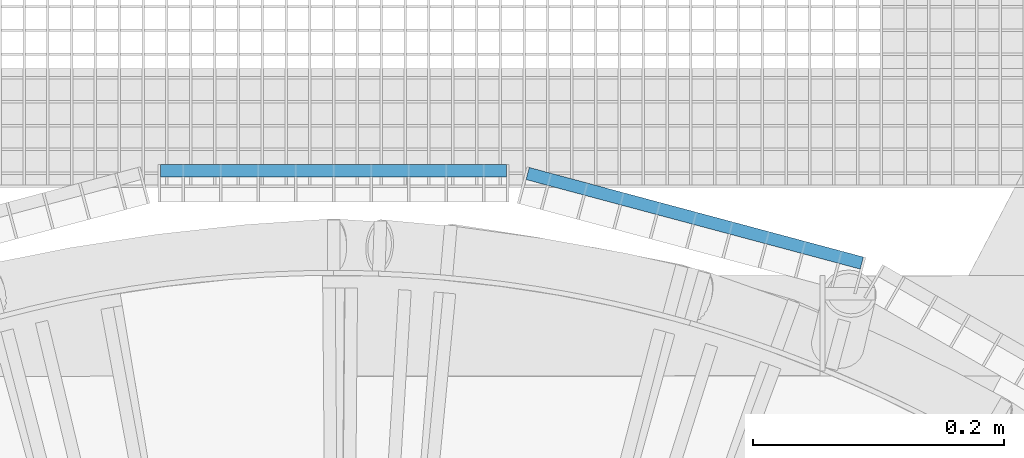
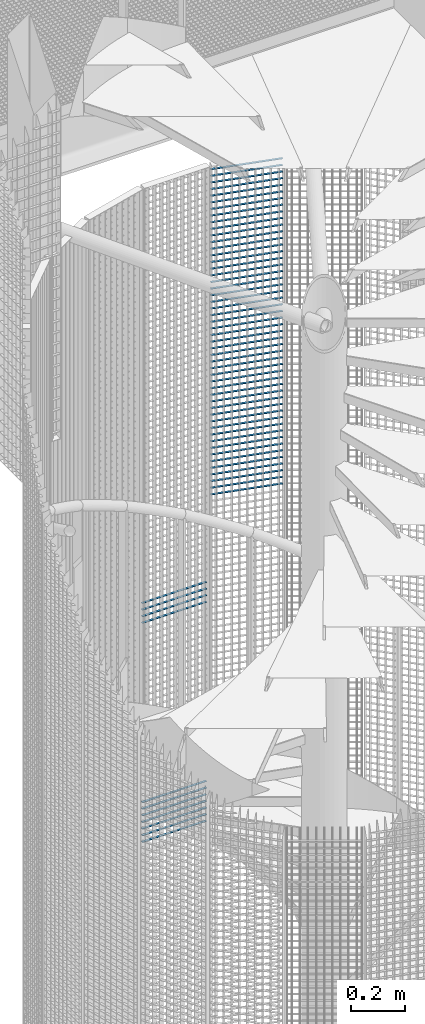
# One storey, part 306 of 1148: 61 beams, 2 elements without a shape of their own.
"""IFC2X3 building model written with IfcOpenShell, lengths in millimetres."""

from ifc_helpers import new_model, si_unit, frame, origin_with_axes, origin_2d_with_axis, place, context, subcontext, project, spatial, rectangle, extrude, material, type_object, element, aggregate, save


model = new_model("IFC2X3")

# Units and contexts
model_context = context("Model", 3, precision=1e-05, world=origin_with_axes())
body_context = subcontext(model_context, "Body", "Model", "MODEL_VIEW")
ifc_project = project(units=[si_unit("LENGTHUNIT", "METRE", prefix="MILLI"), si_unit("AREAUNIT", "SQUARE_METRE"), si_unit("VOLUMEUNIT", "CUBIC_METRE"), si_unit("MASSUNIT", "GRAM", prefix="KILO"), si_unit("TIMEUNIT", "SECOND"), si_unit("PLANEANGLEUNIT", "RADIAN"), si_unit("SOLIDANGLEUNIT", "STERADIAN"), si_unit("THERMODYNAMICTEMPERATUREUNIT", "DEGREE_CELSIUS"), si_unit("LUMINOUSINTENSITYUNIT", "LUMEN")], contexts=[model_context])

# Site, building, storey
site_placement = place(None, origin_with_axes())
site = spatial("IfcSite", under=ifc_project, at=site_placement, Name="Undefined", CompositionType="ELEMENT")
building_placement = place(site_placement, origin_with_axes())
building = spatial("IfcBuilding", under=site, at=building_placement, Name="Undefined", CompositionType="ELEMENT")
storey_placement = place(building_placement, origin_with_axes())
storey = spatial("IfcBuildingStorey", under=building, at=storey_placement, Name="Undefined", CompositionType="ELEMENT", Elevation=0.0)

# Assembly, beams
assembly_1_placement = place(storey_placement, origin_with_axes())
assembly_1 = element("IfcElementAssembly", 1, at=assembly_1_placement, inside=storey, Name="BORDURE", AssemblyPlace="NOTDEFINED", PredefinedType="NOTDEFINED")
ifc_material = material(Name="STEEL/S235JR")
beam_type = type_object("IfcBeamType", Name="PL2*10", PredefinedType="NOTDEFINED")
beam_1_placement = place(assembly_1_placement, frame((137.996003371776, 1113.47999999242, 4020.0), z_axis=(0.0, 1.0, 0.0), x_axis=(-1.0, 0.0, 0.0)))
beam_1 = element("IfcBeam", 2, at=beam_1_placement, type_object=beam_type, material=ifc_material, Name="ENTRETOISE", context=body_context, shape_type="SweptSolid", body=[
    extrude(rectangle(XDim=2.0, YDim=10.0, at=origin_2d_with_axis()), frame((275.999999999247, 9.09494701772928e-13, 1.53210777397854e-14), z_axis=(-1.0, 0.0, 0.0), x_axis=(0.0, -1.0, 0.0)), (0.0, 0.0, 1.0), 276.0),
])
beam_2_placement = place(assembly_1_placement, frame((137.996003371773, 1113.47999999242, 3210.0), z_axis=(0.0, 1.0, 0.0), x_axis=(-1.0, 0.0, 0.0)))
beam_2 = element("IfcBeam", 3, at=beam_2_placement, type_object=beam_type, material=ifc_material, Name="ENTRETOISE", context=body_context, shape_type="SweptSolid", body=[
    extrude(rectangle(XDim=2.0, YDim=10.0, at=origin_2d_with_axis()), frame((275.999999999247, 9.09494701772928e-13, 1.53210777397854e-14), z_axis=(-1.0, 0.0, 0.0), x_axis=(0.0, -1.0, 0.0)), (0.0, 0.0, 1.0), 276.0),
])
beam_3_placement = place(assembly_1_placement, frame((137.996003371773, 1113.47999999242, 3180.0), z_axis=(0.0, 1.0, 0.0), x_axis=(-1.0, 0.0, 0.0)))
beam_3 = element("IfcBeam", 4, at=beam_3_placement, type_object=beam_type, material=ifc_material, Name="ENTRETOISE", context=body_context, shape_type="SweptSolid", body=[
    extrude(rectangle(XDim=2.0, YDim=10.0, at=origin_2d_with_axis()), frame((275.999999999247, 9.09494701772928e-13, 1.53210777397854e-14), z_axis=(-1.0, 0.0, 0.0), x_axis=(0.0, -1.0, 0.0)), (0.0, 0.0, 1.0), 276.0),
])
beam_4_placement = place(assembly_1_placement, frame((137.996003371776, 1113.47999999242, 4050.0), z_axis=(0.0, 1.0, 0.0), x_axis=(-1.0, 0.0, 0.0)))
beam_4 = element("IfcBeam", 5, at=beam_4_placement, type_object=beam_type, material=ifc_material, Name="ENTRETOISE", context=body_context, shape_type="SweptSolid", body=[
    extrude(rectangle(XDim=2.0, YDim=10.0, at=origin_2d_with_axis()), frame((275.999999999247, 9.09494701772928e-13, 1.53210777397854e-14), z_axis=(-1.0, 0.0, 0.0), x_axis=(0.0, -1.0, 0.0)), (0.0, 0.0, 1.0), 276.0),
])
beam_5_placement = place(assembly_1_placement, frame((137.996003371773, 1113.47999999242, 3150.0), z_axis=(0.0, 1.0, 0.0), x_axis=(-1.0, 0.0, 0.0)))
beam_5 = element("IfcBeam", 6, at=beam_5_placement, type_object=beam_type, material=ifc_material, Name="ENTRETOISE", context=body_context, shape_type="SweptSolid", body=[
    extrude(rectangle(XDim=2.0, YDim=10.0, at=origin_2d_with_axis()), frame((275.999999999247, 9.09494701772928e-13, 1.53210777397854e-14), z_axis=(-1.0, 0.0, 0.0), x_axis=(0.0, -1.0, 0.0)), (0.0, 0.0, 1.0), 276.0),
])
beam_6_placement = place(assembly_1_placement, frame((137.996003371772, 1113.47999999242, 3120.0), z_axis=(0.0, 1.0, 0.0), x_axis=(-1.0, 0.0, 0.0)))
beam_6 = element("IfcBeam", 7, at=beam_6_placement, type_object=beam_type, material=ifc_material, Name="ENTRETOISE", context=body_context, shape_type="SweptSolid", body=[
    extrude(rectangle(XDim=2.0, YDim=10.0, at=origin_2d_with_axis()), frame((275.999999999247, 9.09494701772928e-13, 1.53210777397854e-14), z_axis=(-1.0, 0.0, 0.0), x_axis=(0.0, -1.0, 0.0)), (0.0, 0.0, 1.0), 276.0),
])
beam_7_placement = place(assembly_1_placement, frame((137.996003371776, 1113.47999999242, 4080.0), z_axis=(0.0, 1.0, 0.0), x_axis=(-1.0, 0.0, 0.0)))
beam_7 = element("IfcBeam", 8, at=beam_7_placement, type_object=beam_type, material=ifc_material, Name="ENTRETOISE", context=body_context, shape_type="SweptSolid", body=[
    extrude(rectangle(XDim=2.0, YDim=10.0, at=origin_2d_with_axis()), frame((275.999999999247, 9.09494701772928e-13, 1.53210777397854e-14), z_axis=(-1.0, 0.0, 0.0), x_axis=(0.0, -1.0, 0.0)), (0.0, 0.0, 1.0), 276.0),
])
beam_8_placement = place(assembly_1_placement, frame((137.996003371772, 1113.47999999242, 3090.0), z_axis=(0.0, 1.0, 0.0), x_axis=(-1.0, 0.0, 0.0)))
beam_8 = element("IfcBeam", 9, at=beam_8_placement, type_object=beam_type, material=ifc_material, Name="ENTRETOISE", context=body_context, shape_type="SweptSolid", body=[
    extrude(rectangle(XDim=2.0, YDim=10.0, at=origin_2d_with_axis()), frame((275.999999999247, 9.09494701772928e-13, 1.53210777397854e-14), z_axis=(-1.0, 0.0, 0.0), x_axis=(0.0, -1.0, 0.0)), (0.0, 0.0, 1.0), 276.0),
])
beam_9_placement = place(assembly_1_placement, frame((137.996003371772, 1113.47999999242, 3060.0), z_axis=(0.0, 1.0, 0.0), x_axis=(-1.0, 0.0, 0.0)))
beam_9 = element("IfcBeam", 10, at=beam_9_placement, type_object=beam_type, material=ifc_material, Name="ENTRETOISE", context=body_context, shape_type="SweptSolid", body=[
    extrude(rectangle(XDim=2.0, YDim=10.0, at=origin_2d_with_axis()), frame((275.999999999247, 9.09494701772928e-13, 1.53210777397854e-14), z_axis=(-1.0, 0.0, 0.0), x_axis=(0.0, -1.0, 0.0)), (0.0, 0.0, 1.0), 276.0),
])
beam_10_placement = place(assembly_1_placement, frame((137.996003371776, 1113.47999999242, 4110.0), z_axis=(0.0, 1.0, 0.0), x_axis=(-1.0, 0.0, 0.0)))
beam_10 = element("IfcBeam", 11, at=beam_10_placement, type_object=beam_type, material=ifc_material, Name="ENTRETOISE", context=body_context, shape_type="SweptSolid", body=[
    extrude(rectangle(XDim=2.0, YDim=10.0, at=origin_2d_with_axis()), frame((275.999999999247, 9.09494701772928e-13, 1.53210777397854e-14), z_axis=(-1.0, 0.0, 0.0), x_axis=(0.0, -1.0, 0.0)), (0.0, 0.0, 1.0), 276.0),
])
beam_11_placement = place(assembly_1_placement, frame((137.996003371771, 1113.47999999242, 3030.0), z_axis=(0.0, 1.0, 0.0), x_axis=(-1.0, 0.0, 0.0)))
beam_11 = element("IfcBeam", 12, at=beam_11_placement, type_object=beam_type, material=ifc_material, Name="ENTRETOISE", context=body_context, shape_type="SweptSolid", body=[
    extrude(rectangle(XDim=2.0, YDim=10.0, at=origin_2d_with_axis()), frame((275.999999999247, 9.09494701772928e-13, 1.53210777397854e-14), z_axis=(-1.0, 0.0, 0.0), x_axis=(0.0, -1.0, 0.0)), (0.0, 0.0, 1.0), 276.0),
])
aggregate(assembly_1, [beam_1, beam_2, beam_3, beam_4, beam_5, beam_6, beam_7, beam_8, beam_9, beam_10, beam_11])

assembly_2_placement = place(storey_placement, origin_with_axes())
assembly_2 = element("IfcElementAssembly", 13, at=assembly_2_placement, inside=storey, Name="BORDURE", AssemblyPlace="NOTDEFINED", PredefinedType="NOTDEFINED")
beam_12_placement = place(assembly_2_placement, frame((421.483733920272, 1039.82309522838, 5970.0), z_axis=(0.258819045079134, 0.965925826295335, 0.0), x_axis=(-0.965925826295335, 0.258819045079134, 0.0)))
beam_12 = element("IfcBeam", 14, at=beam_12_placement, type_object=beam_type, material=ifc_material, Name="ENTRETOISE", context=body_context, shape_type="SweptSolid", body=[
    extrude(rectangle(XDim=2.0, YDim=10.0, at=origin_2d_with_axis()), frame((275.999999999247, 9.09494701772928e-13, 1.53210777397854e-14), z_axis=(-1.0, 0.0, 0.0), x_axis=(0.0, -1.0, 0.0)), (0.0, 0.0, 1.0), 276.0),
])
beam_13_placement = place(assembly_2_placement, frame((421.483733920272, 1039.82309522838, 5940.0), z_axis=(0.258819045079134, 0.965925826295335, 0.0), x_axis=(-0.965925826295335, 0.258819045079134, 0.0)))
beam_13 = element("IfcBeam", 15, at=beam_13_placement, type_object=beam_type, material=ifc_material, Name="ENTRETOISE", context=body_context, shape_type="SweptSolid", body=[
    extrude(rectangle(XDim=2.0, YDim=10.0, at=origin_2d_with_axis()), frame((275.999999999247, 9.09494701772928e-13, 1.53210777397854e-14), z_axis=(-1.0, 0.0, 0.0), x_axis=(0.0, -1.0, 0.0)), (0.0, 0.0, 1.0), 276.0),
])
beam_14_placement = place(assembly_2_placement, frame((421.483733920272, 1039.82309522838, 5910.0), z_axis=(0.258819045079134, 0.965925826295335, 0.0), x_axis=(-0.965925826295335, 0.258819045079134, 0.0)))
beam_14 = element("IfcBeam", 16, at=beam_14_placement, type_object=beam_type, material=ifc_material, Name="ENTRETOISE", context=body_context, shape_type="SweptSolid", body=[
    extrude(rectangle(XDim=2.0, YDim=10.0, at=origin_2d_with_axis()), frame((275.999999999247, 9.09494701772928e-13, 1.53210777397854e-14), z_axis=(-1.0, 0.0, 0.0), x_axis=(0.0, -1.0, 0.0)), (0.0, 0.0, 1.0), 276.0),
])
beam_15_placement = place(assembly_2_placement, frame((421.483733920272, 1039.82309522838, 5880.0), z_axis=(0.258819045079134, 0.965925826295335, 0.0), x_axis=(-0.965925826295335, 0.258819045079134, 0.0)))
beam_15 = element("IfcBeam", 17, at=beam_15_placement, type_object=beam_type, material=ifc_material, Name="ENTRETOISE", context=body_context, shape_type="SweptSolid", body=[
    extrude(rectangle(XDim=2.0, YDim=10.0, at=origin_2d_with_axis()), frame((275.999999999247, 9.09494701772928e-13, 1.53210777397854e-14), z_axis=(-1.0, 0.0, 0.0), x_axis=(0.0, -1.0, 0.0)), (0.0, 0.0, 1.0), 276.0),
])
beam_16_placement = place(assembly_2_placement, frame((421.483733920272, 1039.82309522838, 5850.0), z_axis=(0.258819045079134, 0.965925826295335, 0.0), x_axis=(-0.965925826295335, 0.258819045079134, 0.0)))
beam_16 = element("IfcBeam", 18, at=beam_16_placement, type_object=beam_type, material=ifc_material, Name="ENTRETOISE", context=body_context, shape_type="SweptSolid", body=[
    extrude(rectangle(XDim=2.0, YDim=10.0, at=origin_2d_with_axis()), frame((275.999999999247, 9.09494701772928e-13, 1.53210777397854e-14), z_axis=(-1.0, 0.0, 0.0), x_axis=(0.0, -1.0, 0.0)), (0.0, 0.0, 1.0), 276.0),
])
beam_17_placement = place(assembly_2_placement, frame((421.483733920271, 1039.82309522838, 5820.0), z_axis=(0.258819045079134, 0.965925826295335, 0.0), x_axis=(-0.965925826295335, 0.258819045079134, 0.0)))
beam_17 = element("IfcBeam", 19, at=beam_17_placement, type_object=beam_type, material=ifc_material, Name="ENTRETOISE", context=body_context, shape_type="SweptSolid", body=[
    extrude(rectangle(XDim=2.0, YDim=10.0, at=origin_2d_with_axis()), frame((275.999999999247, 9.09494701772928e-13, 1.53210777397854e-14), z_axis=(-1.0, 0.0, 0.0), x_axis=(0.0, -1.0, 0.0)), (0.0, 0.0, 1.0), 276.0),
])
beam_18_placement = place(assembly_2_placement, frame((421.483733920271, 1039.82309522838, 5790.0), z_axis=(0.258819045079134, 0.965925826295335, 0.0), x_axis=(-0.965925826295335, 0.258819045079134, 0.0)))
beam_18 = element("IfcBeam", 20, at=beam_18_placement, type_object=beam_type, material=ifc_material, Name="ENTRETOISE", context=body_context, shape_type="SweptSolid", body=[
    extrude(rectangle(XDim=2.0, YDim=10.0, at=origin_2d_with_axis()), frame((275.999999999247, 9.09494701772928e-13, 1.53210777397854e-14), z_axis=(-1.0, 0.0, 0.0), x_axis=(0.0, -1.0, 0.0)), (0.0, 0.0, 1.0), 276.0),
])
beam_19_placement = place(assembly_2_placement, frame((421.483733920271, 1039.82309522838, 5760.0), z_axis=(0.258819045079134, 0.965925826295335, 0.0), x_axis=(-0.965925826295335, 0.258819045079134, 0.0)))
beam_19 = element("IfcBeam", 21, at=beam_19_placement, type_object=beam_type, material=ifc_material, Name="ENTRETOISE", context=body_context, shape_type="SweptSolid", body=[
    extrude(rectangle(XDim=2.0, YDim=10.0, at=origin_2d_with_axis()), frame((275.999999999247, 9.09494701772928e-13, 1.53210777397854e-14), z_axis=(-1.0, 0.0, 0.0), x_axis=(0.0, -1.0, 0.0)), (0.0, 0.0, 1.0), 276.0),
])
beam_20_placement = place(assembly_2_placement, frame((421.483733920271, 1039.82309522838, 5730.0), z_axis=(0.258819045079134, 0.965925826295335, 0.0), x_axis=(-0.965925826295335, 0.258819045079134, 0.0)))
beam_20 = element("IfcBeam", 22, at=beam_20_placement, type_object=beam_type, material=ifc_material, Name="ENTRETOISE", context=body_context, shape_type="SweptSolid", body=[
    extrude(rectangle(XDim=2.0, YDim=10.0, at=origin_2d_with_axis()), frame((275.999999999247, 9.09494701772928e-13, 1.53210777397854e-14), z_axis=(-1.0, 0.0, 0.0), x_axis=(0.0, -1.0, 0.0)), (0.0, 0.0, 1.0), 276.0),
])
beam_21_placement = place(assembly_2_placement, frame((421.483733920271, 1039.82309522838, 5700.0), z_axis=(0.258819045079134, 0.965925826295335, 0.0), x_axis=(-0.965925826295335, 0.258819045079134, 0.0)))
beam_21 = element("IfcBeam", 23, at=beam_21_placement, type_object=beam_type, material=ifc_material, Name="ENTRETOISE", context=body_context, shape_type="SweptSolid", body=[
    extrude(rectangle(XDim=2.0, YDim=10.0, at=origin_2d_with_axis()), frame((275.999999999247, 9.09494701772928e-13, 1.53210777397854e-14), z_axis=(-1.0, 0.0, 0.0), x_axis=(0.0, -1.0, 0.0)), (0.0, 0.0, 1.0), 276.0),
])
beam_22_placement = place(assembly_2_placement, frame((421.483733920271, 1039.82309522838, 5670.0), z_axis=(0.258819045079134, 0.965925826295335, 0.0), x_axis=(-0.965925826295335, 0.258819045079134, 0.0)))
beam_22 = element("IfcBeam", 24, at=beam_22_placement, type_object=beam_type, material=ifc_material, Name="ENTRETOISE", context=body_context, shape_type="SweptSolid", body=[
    extrude(rectangle(XDim=2.0, YDim=10.0, at=origin_2d_with_axis()), frame((275.999999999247, 9.09494701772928e-13, 1.53210777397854e-14), z_axis=(-1.0, 0.0, 0.0), x_axis=(0.0, -1.0, 0.0)), (0.0, 0.0, 1.0), 276.0),
])
beam_23_placement = place(assembly_2_placement, frame((421.483733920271, 1039.82309522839, 5640.0), z_axis=(0.258819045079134, 0.965925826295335, 0.0), x_axis=(-0.965925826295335, 0.258819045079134, 0.0)))
beam_23 = element("IfcBeam", 25, at=beam_23_placement, type_object=beam_type, material=ifc_material, Name="ENTRETOISE", context=body_context, shape_type="SweptSolid", body=[
    extrude(rectangle(XDim=2.0, YDim=10.0, at=origin_2d_with_axis()), frame((275.999999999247, 9.09494701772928e-13, 1.53210777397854e-14), z_axis=(-1.0, 0.0, 0.0), x_axis=(0.0, -1.0, 0.0)), (0.0, 0.0, 1.0), 276.0),
])
beam_24_placement = place(assembly_2_placement, frame((421.483733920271, 1039.82309522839, 5610.0), z_axis=(0.258819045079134, 0.965925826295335, 0.0), x_axis=(-0.965925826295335, 0.258819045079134, 0.0)))
beam_24 = element("IfcBeam", 26, at=beam_24_placement, type_object=beam_type, material=ifc_material, Name="ENTRETOISE", context=body_context, shape_type="SweptSolid", body=[
    extrude(rectangle(XDim=2.0, YDim=10.0, at=origin_2d_with_axis()), frame((275.999999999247, 9.09494701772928e-13, 1.53210777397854e-14), z_axis=(-1.0, 0.0, 0.0), x_axis=(0.0, -1.0, 0.0)), (0.0, 0.0, 1.0), 276.0),
])
beam_25_placement = place(assembly_2_placement, frame((421.483733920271, 1039.82309522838, 5580.0), z_axis=(0.258819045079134, 0.965925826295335, 0.0), x_axis=(-0.965925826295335, 0.258819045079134, 0.0)))
beam_25 = element("IfcBeam", 27, at=beam_25_placement, type_object=beam_type, material=ifc_material, Name="ENTRETOISE", context=body_context, shape_type="SweptSolid", body=[
    extrude(rectangle(XDim=2.0, YDim=10.0, at=origin_2d_with_axis()), frame((275.999999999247, 9.09494701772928e-13, 1.53210777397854e-14), z_axis=(-1.0, 0.0, 0.0), x_axis=(0.0, -1.0, 0.0)), (0.0, 0.0, 1.0), 276.0),
])
beam_26_placement = place(assembly_2_placement, frame((421.48373392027, 1039.82309522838, 5550.0), z_axis=(0.258819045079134, 0.965925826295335, 0.0), x_axis=(-0.965925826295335, 0.258819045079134, 0.0)))
beam_26 = element("IfcBeam", 28, at=beam_26_placement, type_object=beam_type, material=ifc_material, Name="ENTRETOISE", context=body_context, shape_type="SweptSolid", body=[
    extrude(rectangle(XDim=2.0, YDim=10.0, at=origin_2d_with_axis()), frame((275.999999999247, 9.09494701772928e-13, 1.53210777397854e-14), z_axis=(-1.0, 0.0, 0.0), x_axis=(0.0, -1.0, 0.0)), (0.0, 0.0, 1.0), 276.0),
])
beam_27_placement = place(assembly_2_placement, frame((421.48373392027, 1039.82309522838, 5520.0), z_axis=(0.258819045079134, 0.965925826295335, 0.0), x_axis=(-0.965925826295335, 0.258819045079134, 0.0)))
beam_27 = element("IfcBeam", 29, at=beam_27_placement, type_object=beam_type, material=ifc_material, Name="ENTRETOISE", context=body_context, shape_type="SweptSolid", body=[
    extrude(rectangle(XDim=2.0, YDim=10.0, at=origin_2d_with_axis()), frame((275.999999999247, 9.09494701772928e-13, 1.53210777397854e-14), z_axis=(-1.0, 0.0, 0.0), x_axis=(0.0, -1.0, 0.0)), (0.0, 0.0, 1.0), 276.0),
])
beam_28_placement = place(assembly_2_placement, frame((421.48373392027, 1039.82309522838, 5490.0), z_axis=(0.258819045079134, 0.965925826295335, 0.0), x_axis=(-0.965925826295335, 0.258819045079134, 0.0)))
beam_28 = element("IfcBeam", 30, at=beam_28_placement, type_object=beam_type, material=ifc_material, Name="ENTRETOISE", context=body_context, shape_type="SweptSolid", body=[
    extrude(rectangle(XDim=2.0, YDim=10.0, at=origin_2d_with_axis()), frame((275.999999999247, 9.09494701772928e-13, 1.53210777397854e-14), z_axis=(-1.0, 0.0, 0.0), x_axis=(0.0, -1.0, 0.0)), (0.0, 0.0, 1.0), 276.0),
])
beam_29_placement = place(assembly_2_placement, frame((421.48373392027, 1039.82309522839, 5460.0), z_axis=(0.258819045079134, 0.965925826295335, 0.0), x_axis=(-0.965925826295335, 0.258819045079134, 0.0)))
beam_29 = element("IfcBeam", 31, at=beam_29_placement, type_object=beam_type, material=ifc_material, Name="ENTRETOISE", context=body_context, shape_type="SweptSolid", body=[
    extrude(rectangle(XDim=2.0, YDim=10.0, at=origin_2d_with_axis()), frame((275.999999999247, 9.09494701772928e-13, 1.53210777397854e-14), z_axis=(-1.0, 0.0, 0.0), x_axis=(0.0, -1.0, 0.0)), (0.0, 0.0, 1.0), 276.0),
])
beam_30_placement = place(assembly_2_placement, frame((421.48373392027, 1039.82309522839, 5430.0), z_axis=(0.258819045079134, 0.965925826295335, 0.0), x_axis=(-0.965925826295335, 0.258819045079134, 0.0)))
beam_30 = element("IfcBeam", 32, at=beam_30_placement, type_object=beam_type, material=ifc_material, Name="ENTRETOISE", context=body_context, shape_type="SweptSolid", body=[
    extrude(rectangle(XDim=2.0, YDim=10.0, at=origin_2d_with_axis()), frame((275.999999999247, 9.09494701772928e-13, 1.53210777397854e-14), z_axis=(-1.0, 0.0, 0.0), x_axis=(0.0, -1.0, 0.0)), (0.0, 0.0, 1.0), 276.0),
])
beam_31_placement = place(assembly_2_placement, frame((421.48373392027, 1039.82309522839, 5400.0), z_axis=(0.258819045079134, 0.965925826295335, 0.0), x_axis=(-0.965925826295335, 0.258819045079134, 0.0)))
beam_31 = element("IfcBeam", 33, at=beam_31_placement, type_object=beam_type, material=ifc_material, Name="ENTRETOISE", context=body_context, shape_type="SweptSolid", body=[
    extrude(rectangle(XDim=2.0, YDim=10.0, at=origin_2d_with_axis()), frame((275.999999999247, 9.09494701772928e-13, 1.53210777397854e-14), z_axis=(-1.0, 0.0, 0.0), x_axis=(0.0, -1.0, 0.0)), (0.0, 0.0, 1.0), 276.0),
])
beam_32_placement = place(assembly_2_placement, frame((421.48373392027, 1039.82309522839, 5370.0), z_axis=(0.258819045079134, 0.965925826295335, 0.0), x_axis=(-0.965925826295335, 0.258819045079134, 0.0)))
beam_32 = element("IfcBeam", 34, at=beam_32_placement, type_object=beam_type, material=ifc_material, Name="ENTRETOISE", context=body_context, shape_type="SweptSolid", body=[
    extrude(rectangle(XDim=2.0, YDim=10.0, at=origin_2d_with_axis()), frame((275.999999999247, 9.09494701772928e-13, 1.53210777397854e-14), z_axis=(-1.0, 0.0, 0.0), x_axis=(0.0, -1.0, 0.0)), (0.0, 0.0, 1.0), 276.0),
])
beam_33_placement = place(assembly_2_placement, frame((421.48373392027, 1039.82309522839, 5340.0), z_axis=(0.258819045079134, 0.965925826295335, 0.0), x_axis=(-0.965925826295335, 0.258819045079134, 0.0)))
beam_33 = element("IfcBeam", 35, at=beam_33_placement, type_object=beam_type, material=ifc_material, Name="ENTRETOISE", context=body_context, shape_type="SweptSolid", body=[
    extrude(rectangle(XDim=2.0, YDim=10.0, at=origin_2d_with_axis()), frame((275.999999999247, 9.09494701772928e-13, 1.53210777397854e-14), z_axis=(-1.0, 0.0, 0.0), x_axis=(0.0, -1.0, 0.0)), (0.0, 0.0, 1.0), 276.0),
])
beam_34_placement = place(assembly_2_placement, frame((421.48373392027, 1039.82309522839, 5310.0), z_axis=(0.258819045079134, 0.965925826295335, 0.0), x_axis=(-0.965925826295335, 0.258819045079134, 0.0)))
beam_34 = element("IfcBeam", 36, at=beam_34_placement, type_object=beam_type, material=ifc_material, Name="ENTRETOISE", context=body_context, shape_type="SweptSolid", body=[
    extrude(rectangle(XDim=2.0, YDim=10.0, at=origin_2d_with_axis()), frame((275.999999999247, 9.09494701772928e-13, 1.53210777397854e-14), z_axis=(-1.0, 0.0, 0.0), x_axis=(0.0, -1.0, 0.0)), (0.0, 0.0, 1.0), 276.0),
])
beam_35_placement = place(assembly_2_placement, frame((421.48373392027, 1039.82309522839, 5280.0), z_axis=(0.258819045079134, 0.965925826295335, 0.0), x_axis=(-0.965925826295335, 0.258819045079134, 0.0)))
beam_35 = element("IfcBeam", 37, at=beam_35_placement, type_object=beam_type, material=ifc_material, Name="ENTRETOISE", context=body_context, shape_type="SweptSolid", body=[
    extrude(rectangle(XDim=2.0, YDim=10.0, at=origin_2d_with_axis()), frame((275.999999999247, 9.09494701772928e-13, 1.53210777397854e-14), z_axis=(-1.0, 0.0, 0.0), x_axis=(0.0, -1.0, 0.0)), (0.0, 0.0, 1.0), 276.0),
])
beam_36_placement = place(assembly_2_placement, frame((421.48373392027, 1039.82309522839, 5250.0), z_axis=(0.258819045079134, 0.965925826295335, 0.0), x_axis=(-0.965925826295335, 0.258819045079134, 0.0)))
beam_36 = element("IfcBeam", 38, at=beam_36_placement, type_object=beam_type, material=ifc_material, Name="ENTRETOISE", context=body_context, shape_type="SweptSolid", body=[
    extrude(rectangle(XDim=2.0, YDim=10.0, at=origin_2d_with_axis()), frame((275.999999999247, 9.09494701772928e-13, 1.53210777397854e-14), z_axis=(-1.0, 0.0, 0.0), x_axis=(0.0, -1.0, 0.0)), (0.0, 0.0, 1.0), 276.0),
])
beam_37_placement = place(assembly_2_placement, frame((421.48373392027, 1039.82309522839, 5220.0), z_axis=(0.258819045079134, 0.965925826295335, 0.0), x_axis=(-0.965925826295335, 0.258819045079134, 0.0)))
beam_37 = element("IfcBeam", 39, at=beam_37_placement, type_object=beam_type, material=ifc_material, Name="ENTRETOISE", context=body_context, shape_type="SweptSolid", body=[
    extrude(rectangle(XDim=2.0, YDim=10.0, at=origin_2d_with_axis()), frame((275.999999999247, 9.09494701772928e-13, 1.53210777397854e-14), z_axis=(-1.0, 0.0, 0.0), x_axis=(0.0, -1.0, 0.0)), (0.0, 0.0, 1.0), 276.0),
])
beam_38_placement = place(assembly_2_placement, frame((421.483733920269, 1039.82309522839, 5190.0), z_axis=(0.258819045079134, 0.965925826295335, 0.0), x_axis=(-0.965925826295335, 0.258819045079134, 0.0)))
beam_38 = element("IfcBeam", 40, at=beam_38_placement, type_object=beam_type, material=ifc_material, Name="ENTRETOISE", context=body_context, shape_type="SweptSolid", body=[
    extrude(rectangle(XDim=2.0, YDim=10.0, at=origin_2d_with_axis()), frame((275.999999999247, 9.09494701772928e-13, 1.53210777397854e-14), z_axis=(-1.0, 0.0, 0.0), x_axis=(0.0, -1.0, 0.0)), (0.0, 0.0, 1.0), 276.0),
])
beam_39_placement = place(assembly_2_placement, frame((421.483733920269, 1039.82309522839, 5160.0), z_axis=(0.258819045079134, 0.965925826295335, 0.0), x_axis=(-0.965925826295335, 0.258819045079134, 0.0)))
beam_39 = element("IfcBeam", 41, at=beam_39_placement, type_object=beam_type, material=ifc_material, Name="ENTRETOISE", context=body_context, shape_type="SweptSolid", body=[
    extrude(rectangle(XDim=2.0, YDim=10.0, at=origin_2d_with_axis()), frame((275.999999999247, 9.09494701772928e-13, 1.53210777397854e-14), z_axis=(-1.0, 0.0, 0.0), x_axis=(0.0, -1.0, 0.0)), (0.0, 0.0, 1.0), 276.0),
])
beam_40_placement = place(assembly_2_placement, frame((421.483733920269, 1039.82309522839, 5130.0), z_axis=(0.258819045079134, 0.965925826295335, 0.0), x_axis=(-0.965925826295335, 0.258819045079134, 0.0)))
beam_40 = element("IfcBeam", 42, at=beam_40_placement, type_object=beam_type, material=ifc_material, Name="ENTRETOISE", context=body_context, shape_type="SweptSolid", body=[
    extrude(rectangle(XDim=2.0, YDim=10.0, at=origin_2d_with_axis()), frame((275.999999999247, 9.09494701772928e-13, 1.53210777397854e-14), z_axis=(-1.0, 0.0, 0.0), x_axis=(0.0, -1.0, 0.0)), (0.0, 0.0, 1.0), 276.0),
])
beam_41_placement = place(assembly_2_placement, frame((421.483733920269, 1039.82309522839, 5100.0), z_axis=(0.258819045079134, 0.965925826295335, 0.0), x_axis=(-0.965925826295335, 0.258819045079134, 0.0)))
beam_41 = element("IfcBeam", 43, at=beam_41_placement, type_object=beam_type, material=ifc_material, Name="ENTRETOISE", context=body_context, shape_type="SweptSolid", body=[
    extrude(rectangle(XDim=2.0, YDim=10.0, at=origin_2d_with_axis()), frame((275.999999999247, 9.09494701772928e-13, 1.53210777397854e-14), z_axis=(-1.0, 0.0, 0.0), x_axis=(0.0, -1.0, 0.0)), (0.0, 0.0, 1.0), 276.0),
])
beam_42_placement = place(assembly_2_placement, frame((421.483733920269, 1039.82309522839, 5070.0), z_axis=(0.258819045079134, 0.965925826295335, 0.0), x_axis=(-0.965925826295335, 0.258819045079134, 0.0)))
beam_42 = element("IfcBeam", 44, at=beam_42_placement, type_object=beam_type, material=ifc_material, Name="ENTRETOISE", context=body_context, shape_type="SweptSolid", body=[
    extrude(rectangle(XDim=2.0, YDim=10.0, at=origin_2d_with_axis()), frame((275.999999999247, 9.09494701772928e-13, 1.53210777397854e-14), z_axis=(-1.0, 0.0, 0.0), x_axis=(0.0, -1.0, 0.0)), (0.0, 0.0, 1.0), 276.0),
])
beam_43_placement = place(assembly_2_placement, frame((421.483733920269, 1039.82309522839, 5040.0), z_axis=(0.258819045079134, 0.965925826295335, 0.0), x_axis=(-0.965925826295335, 0.258819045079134, 0.0)))
beam_43 = element("IfcBeam", 45, at=beam_43_placement, type_object=beam_type, material=ifc_material, Name="ENTRETOISE", context=body_context, shape_type="SweptSolid", body=[
    extrude(rectangle(XDim=2.0, YDim=10.0, at=origin_2d_with_axis()), frame((275.999999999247, 9.09494701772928e-13, 1.53210777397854e-14), z_axis=(-1.0, 0.0, 0.0), x_axis=(0.0, -1.0, 0.0)), (0.0, 0.0, 1.0), 276.0),
])
beam_44_placement = place(assembly_2_placement, frame((421.483733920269, 1039.82309522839, 5010.0), z_axis=(0.258819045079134, 0.965925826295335, 0.0), x_axis=(-0.965925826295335, 0.258819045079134, 0.0)))
beam_44 = element("IfcBeam", 46, at=beam_44_placement, type_object=beam_type, material=ifc_material, Name="ENTRETOISE", context=body_context, shape_type="SweptSolid", body=[
    extrude(rectangle(XDim=2.0, YDim=10.0, at=origin_2d_with_axis()), frame((275.999999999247, 9.09494701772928e-13, 1.53210777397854e-14), z_axis=(-1.0, 0.0, 0.0), x_axis=(0.0, -1.0, 0.0)), (0.0, 0.0, 1.0), 276.0),
])
beam_45_placement = place(assembly_2_placement, frame((421.483733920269, 1039.82309522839, 4980.0), z_axis=(0.258819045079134, 0.965925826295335, 0.0), x_axis=(-0.965925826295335, 0.258819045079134, 0.0)))
beam_45 = element("IfcBeam", 47, at=beam_45_placement, type_object=beam_type, material=ifc_material, Name="ENTRETOISE", context=body_context, shape_type="SweptSolid", body=[
    extrude(rectangle(XDim=2.0, YDim=10.0, at=origin_2d_with_axis()), frame((275.999999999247, 9.09494701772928e-13, 1.53210777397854e-14), z_axis=(-1.0, 0.0, 0.0), x_axis=(0.0, -1.0, 0.0)), (0.0, 0.0, 1.0), 276.0),
])
beam_46_placement = place(assembly_2_placement, frame((421.483733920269, 1039.82309522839, 4950.0), z_axis=(0.258819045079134, 0.965925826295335, 0.0), x_axis=(-0.965925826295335, 0.258819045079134, 0.0)))
beam_46 = element("IfcBeam", 48, at=beam_46_placement, type_object=beam_type, material=ifc_material, Name="ENTRETOISE", context=body_context, shape_type="SweptSolid", body=[
    extrude(rectangle(XDim=2.0, YDim=10.0, at=origin_2d_with_axis()), frame((275.999999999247, 9.09494701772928e-13, 1.53210777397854e-14), z_axis=(-1.0, 0.0, 0.0), x_axis=(0.0, -1.0, 0.0)), (0.0, 0.0, 1.0), 276.0),
])
beam_47_placement = place(assembly_2_placement, frame((421.483733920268, 1039.82309522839, 4920.0), z_axis=(0.258819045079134, 0.965925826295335, 0.0), x_axis=(-0.965925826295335, 0.258819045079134, 0.0)))
beam_47 = element("IfcBeam", 49, at=beam_47_placement, type_object=beam_type, material=ifc_material, Name="ENTRETOISE", context=body_context, shape_type="SweptSolid", body=[
    extrude(rectangle(XDim=2.0, YDim=10.0, at=origin_2d_with_axis()), frame((275.999999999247, 9.09494701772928e-13, 1.53210777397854e-14), z_axis=(-1.0, 0.0, 0.0), x_axis=(0.0, -1.0, 0.0)), (0.0, 0.0, 1.0), 276.0),
])
beam_48_placement = place(assembly_2_placement, frame((421.483733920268, 1039.82309522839, 4890.0), z_axis=(0.258819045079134, 0.965925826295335, 0.0), x_axis=(-0.965925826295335, 0.258819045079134, 0.0)))
beam_48 = element("IfcBeam", 50, at=beam_48_placement, type_object=beam_type, material=ifc_material, Name="ENTRETOISE", context=body_context, shape_type="SweptSolid", body=[
    extrude(rectangle(XDim=2.0, YDim=10.0, at=origin_2d_with_axis()), frame((275.999999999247, 9.09494701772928e-13, 1.53210777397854e-14), z_axis=(-1.0, 0.0, 0.0), x_axis=(0.0, -1.0, 0.0)), (0.0, 0.0, 1.0), 276.0),
])
beam_49_placement = place(assembly_2_placement, frame((421.483733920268, 1039.82309522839, 4860.0), z_axis=(0.258819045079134, 0.965925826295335, 0.0), x_axis=(-0.965925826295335, 0.258819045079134, 0.0)))
beam_49 = element("IfcBeam", 51, at=beam_49_placement, type_object=beam_type, material=ifc_material, Name="ENTRETOISE", context=body_context, shape_type="SweptSolid", body=[
    extrude(rectangle(XDim=2.0, YDim=10.0, at=origin_2d_with_axis()), frame((275.999999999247, 9.09494701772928e-13, 1.53210777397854e-14), z_axis=(-1.0, 0.0, 0.0), x_axis=(0.0, -1.0, 0.0)), (0.0, 0.0, 1.0), 276.0),
])
beam_50_placement = place(assembly_2_placement, frame((421.483733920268, 1039.82309522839, 4830.0), z_axis=(0.258819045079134, 0.965925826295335, 0.0), x_axis=(-0.965925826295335, 0.258819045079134, 0.0)))
beam_50 = element("IfcBeam", 52, at=beam_50_placement, type_object=beam_type, material=ifc_material, Name="ENTRETOISE", context=body_context, shape_type="SweptSolid", body=[
    extrude(rectangle(XDim=2.0, YDim=10.0, at=origin_2d_with_axis()), frame((275.999999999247, 9.09494701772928e-13, 1.53210777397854e-14), z_axis=(-1.0, 0.0, 0.0), x_axis=(0.0, -1.0, 0.0)), (0.0, 0.0, 1.0), 276.0),
])
beam_51_placement = place(assembly_2_placement, frame((421.483733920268, 1039.82309522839, 4800.0), z_axis=(0.258819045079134, 0.965925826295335, 0.0), x_axis=(-0.965925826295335, 0.258819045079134, 0.0)))
beam_51 = element("IfcBeam", 53, at=beam_51_placement, type_object=beam_type, material=ifc_material, Name="ENTRETOISE", context=body_context, shape_type="SweptSolid", body=[
    extrude(rectangle(XDim=2.0, YDim=10.0, at=origin_2d_with_axis()), frame((275.999999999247, 9.09494701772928e-13, 1.53210777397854e-14), z_axis=(-1.0, 0.0, 0.0), x_axis=(0.0, -1.0, 0.0)), (0.0, 0.0, 1.0), 276.0),
])
beam_52_placement = place(assembly_2_placement, frame((421.483733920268, 1039.82309522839, 4770.0), z_axis=(0.258819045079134, 0.965925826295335, 0.0), x_axis=(-0.965925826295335, 0.258819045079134, 0.0)))
beam_52 = element("IfcBeam", 54, at=beam_52_placement, type_object=beam_type, material=ifc_material, Name="ENTRETOISE", context=body_context, shape_type="SweptSolid", body=[
    extrude(rectangle(XDim=2.0, YDim=10.0, at=origin_2d_with_axis()), frame((275.999999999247, 9.09494701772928e-13, 1.53210777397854e-14), z_axis=(-1.0, 0.0, 0.0), x_axis=(0.0, -1.0, 0.0)), (0.0, 0.0, 1.0), 276.0),
])
beam_53_placement = place(assembly_2_placement, frame((421.483733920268, 1039.82309522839, 4740.0), z_axis=(0.258819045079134, 0.965925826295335, 0.0), x_axis=(-0.965925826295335, 0.258819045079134, 0.0)))
beam_53 = element("IfcBeam", 55, at=beam_53_placement, type_object=beam_type, material=ifc_material, Name="ENTRETOISE", context=body_context, shape_type="SweptSolid", body=[
    extrude(rectangle(XDim=2.0, YDim=10.0, at=origin_2d_with_axis()), frame((275.999999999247, 9.09494701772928e-13, 1.53210777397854e-14), z_axis=(-1.0, 0.0, 0.0), x_axis=(0.0, -1.0, 0.0)), (0.0, 0.0, 1.0), 276.0),
])
beam_54_placement = place(assembly_2_placement, frame((421.483733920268, 1039.82309522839, 4710.0), z_axis=(0.258819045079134, 0.965925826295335, 0.0), x_axis=(-0.965925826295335, 0.258819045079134, 0.0)))
beam_54 = element("IfcBeam", 56, at=beam_54_placement, type_object=beam_type, material=ifc_material, Name="ENTRETOISE", context=body_context, shape_type="SweptSolid", body=[
    extrude(rectangle(XDim=2.0, YDim=10.0, at=origin_2d_with_axis()), frame((275.999999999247, 9.09494701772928e-13, 1.53210777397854e-14), z_axis=(-1.0, 0.0, 0.0), x_axis=(0.0, -1.0, 0.0)), (0.0, 0.0, 1.0), 276.0),
])
beam_55_placement = place(assembly_2_placement, frame((421.483733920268, 1039.82309522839, 4680.0), z_axis=(0.258819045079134, 0.965925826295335, 0.0), x_axis=(-0.965925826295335, 0.258819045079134, 0.0)))
beam_55 = element("IfcBeam", 57, at=beam_55_placement, type_object=beam_type, material=ifc_material, Name="ENTRETOISE", context=body_context, shape_type="SweptSolid", body=[
    extrude(rectangle(XDim=2.0, YDim=10.0, at=origin_2d_with_axis()), frame((275.999999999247, 9.09494701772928e-13, 1.53210777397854e-14), z_axis=(-1.0, 0.0, 0.0), x_axis=(0.0, -1.0, 0.0)), (0.0, 0.0, 1.0), 276.0),
])
beam_56_placement = place(assembly_2_placement, frame((421.483733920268, 1039.82309522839, 4650.0), z_axis=(0.258819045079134, 0.965925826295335, 0.0), x_axis=(-0.965925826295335, 0.258819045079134, 0.0)))
beam_56 = element("IfcBeam", 58, at=beam_56_placement, type_object=beam_type, material=ifc_material, Name="ENTRETOISE", context=body_context, shape_type="SweptSolid", body=[
    extrude(rectangle(XDim=2.0, YDim=10.0, at=origin_2d_with_axis()), frame((275.999999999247, 9.09494701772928e-13, 1.53210777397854e-14), z_axis=(-1.0, 0.0, 0.0), x_axis=(0.0, -1.0, 0.0)), (0.0, 0.0, 1.0), 276.0),
])
beam_57_placement = place(assembly_2_placement, frame((421.483733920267, 1039.82309522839, 4620.0), z_axis=(0.258819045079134, 0.965925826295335, 0.0), x_axis=(-0.965925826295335, 0.258819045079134, 0.0)))
beam_57 = element("IfcBeam", 59, at=beam_57_placement, type_object=beam_type, material=ifc_material, Name="ENTRETOISE", context=body_context, shape_type="SweptSolid", body=[
    extrude(rectangle(XDim=2.0, YDim=10.0, at=origin_2d_with_axis()), frame((275.999999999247, 9.09494701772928e-13, 1.53210777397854e-14), z_axis=(-1.0, 0.0, 0.0), x_axis=(0.0, -1.0, 0.0)), (0.0, 0.0, 1.0), 276.0),
])
beam_58_placement = place(assembly_2_placement, frame((421.483733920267, 1039.82309522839, 4590.0), z_axis=(0.258819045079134, 0.965925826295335, 0.0), x_axis=(-0.965925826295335, 0.258819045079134, 0.0)))
beam_58 = element("IfcBeam", 60, at=beam_58_placement, type_object=beam_type, material=ifc_material, Name="ENTRETOISE", context=body_context, shape_type="SweptSolid", body=[
    extrude(rectangle(XDim=2.0, YDim=10.0, at=origin_2d_with_axis()), frame((275.999999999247, 9.09494701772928e-13, 1.53210777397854e-14), z_axis=(-1.0, 0.0, 0.0), x_axis=(0.0, -1.0, 0.0)), (0.0, 0.0, 1.0), 276.0),
])
beam_59_placement = place(assembly_2_placement, frame((421.483733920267, 1039.82309522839, 4560.0), z_axis=(0.258819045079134, 0.965925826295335, 0.0), x_axis=(-0.965925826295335, 0.258819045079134, 0.0)))
beam_59 = element("IfcBeam", 61, at=beam_59_placement, type_object=beam_type, material=ifc_material, Name="ENTRETOISE", context=body_context, shape_type="SweptSolid", body=[
    extrude(rectangle(XDim=2.0, YDim=10.0, at=origin_2d_with_axis()), frame((275.999999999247, 9.09494701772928e-13, 1.53210777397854e-14), z_axis=(-1.0, 0.0, 0.0), x_axis=(0.0, -1.0, 0.0)), (0.0, 0.0, 1.0), 276.0),
])
beam_60_placement = place(assembly_2_placement, frame((421.483733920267, 1039.82309522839, 4530.0), z_axis=(0.258819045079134, 0.965925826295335, 0.0), x_axis=(-0.965925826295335, 0.258819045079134, 0.0)))
beam_60 = element("IfcBeam", 62, at=beam_60_placement, type_object=beam_type, material=ifc_material, Name="ENTRETOISE", context=body_context, shape_type="SweptSolid", body=[
    extrude(rectangle(XDim=2.0, YDim=10.0, at=origin_2d_with_axis()), frame((275.999999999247, 9.09494701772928e-13, 1.53210777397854e-14), z_axis=(-1.0, 0.0, 0.0), x_axis=(0.0, -1.0, 0.0)), (0.0, 0.0, 1.0), 276.0),
])
beam_61_placement = place(assembly_2_placement, frame((421.483733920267, 1039.82309522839, 4500.0), z_axis=(0.258819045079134, 0.965925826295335, 0.0), x_axis=(-0.965925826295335, 0.258819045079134, 0.0)))
beam_61 = element("IfcBeam", 63, at=beam_61_placement, type_object=beam_type, material=ifc_material, Name="ENTRETOISE", context=body_context, shape_type="SweptSolid", body=[
    extrude(rectangle(XDim=2.0, YDim=10.0, at=origin_2d_with_axis()), frame((275.999999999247, 9.09494701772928e-13, 1.53210777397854e-14), z_axis=(-1.0, 0.0, 0.0), x_axis=(0.0, -1.0, 0.0)), (0.0, 0.0, 1.0), 276.0),
])
aggregate(assembly_2, [beam_12, beam_13, beam_14, beam_15, beam_16, beam_17, beam_18, beam_19, beam_20, beam_21, beam_22, beam_23, beam_24, beam_25, beam_26, beam_27, beam_28, beam_29, beam_30, beam_31, beam_32, beam_33, beam_34, beam_35, beam_36, beam_37, beam_38, beam_39, beam_40, beam_41, beam_42, beam_43, beam_44, beam_45, beam_46, beam_47, beam_48, beam_49, beam_50, beam_51, beam_52, beam_53, beam_54, beam_55, beam_56, beam_57, beam_58, beam_59, beam_60, beam_61])

save(model, "model.ifc")
